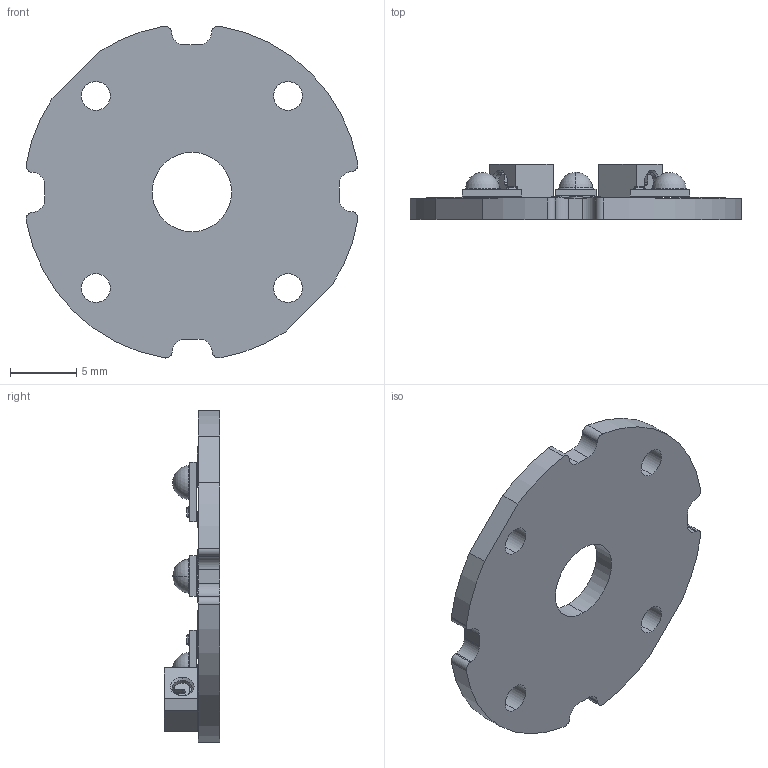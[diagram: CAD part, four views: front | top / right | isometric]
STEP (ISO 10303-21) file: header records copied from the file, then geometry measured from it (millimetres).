
FILE_DESCRIPTION (( 'STEP AP214' ), '1' );
FILE_NAME ('SW-09.STEP', '2023-11-14T03:38:14', ( '' ), ( '' ), 'SwSTEP 2.0', 'SolidWorks 2021', '' );
FILE_SCHEMA (( 'AUTOMOTIVE_DESIGN' ));
Length unit declared in the file: millimetre
Products named in the file (1): SW-09
Bounding box: 25.09 x 4.18 x 25.09 mm (x, y, z)
Volume: 804.4 mm3; surface area: 1496.8 mm2
Topology: 9 solids, 9 shells, 1074 faces, 2814 edges, 1824 vertices
Faces by surface type: plane 638, cylinder 247, bspline 133, torus 24, sphere 24, cone 8
Entity records: 47620 total; most frequent: CARTESIAN_POINT 12626, ORIENTED_EDGE 5572, DIRECTION 4950, EDGE_CURVE 2786, VECTOR 1974, LINE 1974, VERTEX_POINT 1820, AXIS2_PLACEMENT_3D 1488
